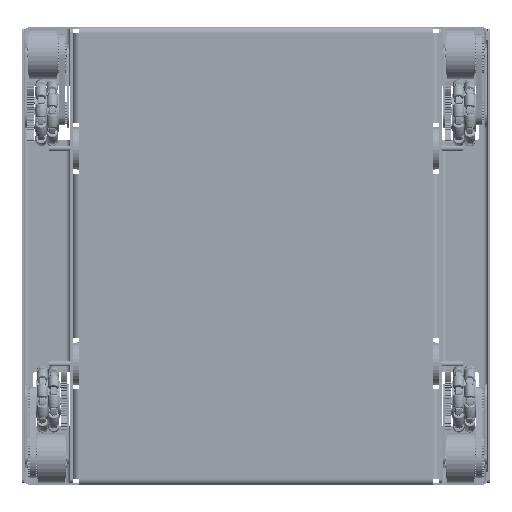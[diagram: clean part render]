
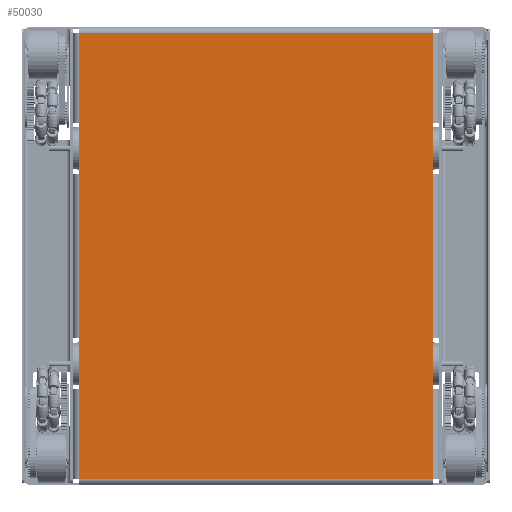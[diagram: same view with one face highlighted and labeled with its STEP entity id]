
A CAD part, front view. The second image highlights one B-rep face of the part: STEP entity #50030.
In plain terms, the highlighted planar face has unit normal (0, -1, 0).
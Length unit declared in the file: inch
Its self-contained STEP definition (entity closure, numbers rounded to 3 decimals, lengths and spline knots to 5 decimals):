
#2832 = VERTEX_POINT ( 'NONE', #189489 ) ;
#19314 = LINE ( 'NONE', #482002, #116395 ) ;
#21460 = EDGE_CURVE ( 'NONE', #2832, #532589, #19314, .T. ) ;
#23506 = CARTESIAN_POINT ( 'NONE',  ( -13.22441, -0.125, -10.5 ) ) ;
#27730 = DIRECTION ( 'NONE',  ( -1., 0., 0. ) ) ;
#30628 = EDGE_CURVE ( 'NONE', #394207, #490355, #271076, .T. ) ;
#43332 = VERTEX_POINT ( 'NONE', #470166 ) ;
#49131 = EDGE_CURVE ( 'NONE', #43332, #449011, #368952, .T. ) ;
#50030 = ADVANCED_FACE ( 'NONE', ( #523314 ), #119148, .T. ) ;
#88238 = VERTEX_POINT ( 'NONE', #340938 ) ;
#98976 = CARTESIAN_POINT ( 'NONE',  ( 4.87441, -0.125, 10.5 ) ) ;
#105395 = EDGE_CURVE ( 'NONE', #490355, #369602, #162915, .T. ) ;
#107094 = CARTESIAN_POINT ( 'NONE',  ( -13.22441, -0.125, 10.5 ) ) ;
#116395 = VECTOR ( 'NONE', #27730, 39.37008 ) ;
#116704 = DIRECTION ( 'NONE',  ( -1., 0., 0. ) ) ;
#116774 = CARTESIAN_POINT ( 'NONE',  ( -7.87441, -0.125, -10.5 ) ) ;
#119148 = PLANE ( 'NONE',  #373915 ) ;
#120010 = CARTESIAN_POINT ( 'NONE',  ( 13.22441, -0.125, -10.5 ) ) ;
#128527 = ORIENTED_EDGE ( 'NONE', *, *, #21460, .T. ) ;
#129879 = VECTOR ( 'NONE', #116704, 39.37008 ) ;
#135574 = CARTESIAN_POINT ( 'NONE',  ( 13.22441, -0.125, 10.5 ) ) ;
#152776 = CARTESIAN_POINT ( 'NONE',  ( 7.87441, -0.125, 10.5 ) ) ;
#155364 = ORIENTED_EDGE ( 'NONE', *, *, #522462, .T. ) ;
#155936 = LINE ( 'NONE', #239820, #129879 ) ;
#156914 = ORIENTED_EDGE ( 'NONE', *, *, #30628, .T. ) ;
#159603 = ORIENTED_EDGE ( 'NONE', *, *, #105395, .T. ) ;
#162915 = LINE ( 'NONE', #521377, #259893 ) ;
#166590 = EDGE_CURVE ( 'NONE', #449011, #2832, #305570, .T. ) ;
#167479 = CARTESIAN_POINT ( 'NONE',  ( -13.22441, -0.125, -10.5 ) ) ;
#170640 = VERTEX_POINT ( 'NONE', #107094 ) ;
#175471 = ORIENTED_EDGE ( 'NONE', *, *, #310416, .T. ) ;
#181801 = VECTOR ( 'NONE', #270699, 39.37008 ) ;
#184183 = CARTESIAN_POINT ( 'NONE',  ( 13.22441, -0.125, 10.5 ) ) ;
#189489 = CARTESIAN_POINT ( 'NONE',  ( 13.22441, -0.125, 10.5 ) ) ;
#195591 = VECTOR ( 'NONE', #196440, 39.37008 ) ;
#196440 = DIRECTION ( 'NONE',  ( 0., 0., 1. ) ) ;
#202237 = VERTEX_POINT ( 'NONE', #233458 ) ;
#202440 = DIRECTION ( 'NONE',  ( 0., 0., -1. ) ) ;
#215733 = EDGE_LOOP ( 'NONE', ( #128527, #442980, #307471, #226905, #339698, #437338, #175471, #156914, #159603, #155364, #304908, #428233 ) ) ;
#226905 = ORIENTED_EDGE ( 'NONE', *, *, #452154, .F. ) ;
#227277 = CARTESIAN_POINT ( 'NONE',  ( 13.22441, -0.125, 10.5 ) ) ;
#233458 = CARTESIAN_POINT ( 'NONE',  ( -4.87441, -0.125, 10.5 ) ) ;
#239820 = CARTESIAN_POINT ( 'NONE',  ( 13.22441, -0.125, 10.5 ) ) ;
#241635 = LINE ( 'NONE', #135574, #325846 ) ;
#244457 = VECTOR ( 'NONE', #513697, 39.37008 ) ;
#250626 = DIRECTION ( 'NONE',  ( 1., 0., 0. ) ) ;
#256188 = VERTEX_POINT ( 'NONE', #357479 ) ;
#258042 = VECTOR ( 'NONE', #313044, 39.37008 ) ;
#259893 = VECTOR ( 'NONE', #273234, 39.37008 ) ;
#270699 = DIRECTION ( 'NONE',  ( 1., 0., 0. ) ) ;
#271076 = LINE ( 'NONE', #23506, #258042 ) ;
#273234 = DIRECTION ( 'NONE',  ( 1., 0., 0. ) ) ;
#293934 = CARTESIAN_POINT ( 'NONE',  ( -13.22441, -0.125, -10.5 ) ) ;
#296088 = VECTOR ( 'NONE', #357242, 39.37008 ) ;
#298005 = CARTESIAN_POINT ( 'NONE',  ( 4.87441, -0.125, -10.5 ) ) ;
#304908 = ORIENTED_EDGE ( 'NONE', *, *, #49131, .T. ) ;
#305570 = LINE ( 'NONE', #444454, #195591 ) ;
#307471 = ORIENTED_EDGE ( 'NONE', *, *, #457805, .T. ) ;
#310416 = EDGE_CURVE ( 'NONE', #256188, #394207, #468489, .T. ) ;
#313044 = DIRECTION ( 'NONE',  ( 1., 0., 0. ) ) ;
#315618 = CARTESIAN_POINT ( 'NONE',  ( -13.22441, -0.125, 10.5 ) ) ;
#325846 = VECTOR ( 'NONE', #465102, 39.37008 ) ;
#328560 = EDGE_CURVE ( 'NONE', #170640, #256188, #419216, .T. ) ;
#335571 = DIRECTION ( 'NONE',  ( 1., 0., 0. ) ) ;
#339698 = ORIENTED_EDGE ( 'NONE', *, *, #524486, .T. ) ;
#340938 = CARTESIAN_POINT ( 'NONE',  ( -7.87441, -0.125, 10.5 ) ) ;
#346312 = CARTESIAN_POINT ( 'NONE',  ( -4.87441, -0.125, -10.5 ) ) ;
#357242 = DIRECTION ( 'NONE',  ( 0., 0., -1. ) ) ;
#357479 = CARTESIAN_POINT ( 'NONE',  ( -13.22441, -0.125, -10.5 ) ) ;
#358433 = VECTOR ( 'NONE', #464447, 39.37008 ) ;
#367118 = CARTESIAN_POINT ( 'NONE',  ( 0., -0.125, 0. ) ) ;
#368952 = LINE ( 'NONE', #167479, #466034 ) ;
#369602 = VERTEX_POINT ( 'NONE', #298005 ) ;
#373915 = AXIS2_PLACEMENT_3D ( 'NONE', #367118, #450385, #202440 ) ;
#375678 = VECTOR ( 'NONE', #335571, 39.37008 ) ;
#381222 = CARTESIAN_POINT ( 'NONE',  ( -13.22441, -0.125, -10.5 ) ) ;
#394207 = VERTEX_POINT ( 'NONE', #116774 ) ;
#419216 = LINE ( 'NONE', #315618, #296088 ) ;
#428233 = ORIENTED_EDGE ( 'NONE', *, *, #166590, .T. ) ;
#437338 = ORIENTED_EDGE ( 'NONE', *, *, #328560, .T. ) ;
#442980 = ORIENTED_EDGE ( 'NONE', *, *, #473329, .F. ) ;
#444454 = CARTESIAN_POINT ( 'NONE',  ( 13.22441, -0.125, -10.5 ) ) ;
#449011 = VERTEX_POINT ( 'NONE', #120010 ) ;
#450385 = DIRECTION ( 'NONE',  ( 0., -1., 0. ) ) ;
#452154 = EDGE_CURVE ( 'NONE', #88238, #202237, #499239, .T. ) ;
#456222 = VERTEX_POINT ( 'NONE', #98976 ) ;
#457805 = EDGE_CURVE ( 'NONE', #456222, #202237, #155936, .T. ) ;
#464447 = DIRECTION ( 'NONE',  ( 1., 0., 0. ) ) ;
#465102 = DIRECTION ( 'NONE',  ( 1., 0., 0. ) ) ;
#466034 = VECTOR ( 'NONE', #250626, 39.37008 ) ;
#468489 = LINE ( 'NONE', #381222, #358433 ) ;
#470166 = CARTESIAN_POINT ( 'NONE',  ( 7.87441, -0.125, -10.5 ) ) ;
#472737 = LINE ( 'NONE', #293934, #375678 ) ;
#473329 = EDGE_CURVE ( 'NONE', #456222, #532589, #241635, .T. ) ;
#477642 = LINE ( 'NONE', #184183, #244457 ) ;
#482002 = CARTESIAN_POINT ( 'NONE',  ( 13.22441, -0.125, 10.5 ) ) ;
#490355 = VERTEX_POINT ( 'NONE', #346312 ) ;
#499239 = LINE ( 'NONE', #227277, #181801 ) ;
#513697 = DIRECTION ( 'NONE',  ( -1., 0., 0. ) ) ;
#521377 = CARTESIAN_POINT ( 'NONE',  ( -13.22441, -0.125, -10.5 ) ) ;
#522462 = EDGE_CURVE ( 'NONE', #369602, #43332, #472737, .T. ) ;
#523314 = FACE_OUTER_BOUND ( 'NONE', #215733, .T. ) ;
#524486 = EDGE_CURVE ( 'NONE', #88238, #170640, #477642, .T. ) ;
#532589 = VERTEX_POINT ( 'NONE', #152776 ) ;
